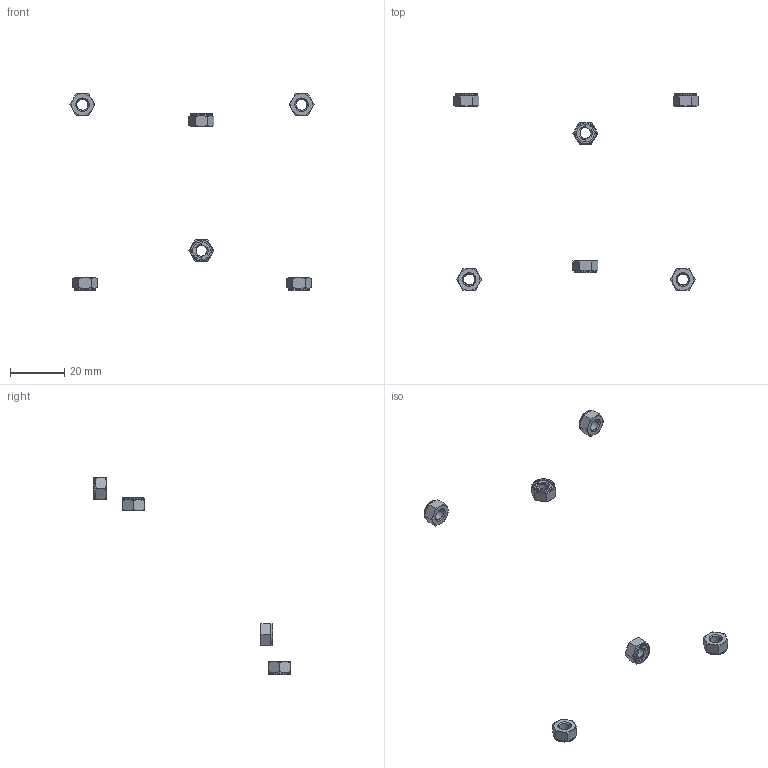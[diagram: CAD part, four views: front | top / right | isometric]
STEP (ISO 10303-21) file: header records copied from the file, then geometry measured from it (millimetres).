
FILE_DESCRIPTION(/* description */ (''),/* implementation_level */ '2;1');
FILE_NAME(/* name */ 'X-8067~1',/* time_stamp */ '2014-02-14T19:44:40+01:00',/* author */ (''),/* organization */ (''),/* preprocessor_version */ 'ST-DEVELOPER v14',/* originating_system */ '',/* authorisation */ '');
FILE_SCHEMA (('AUTOMOTIVE_DESIGN'));
Length unit declared in the file: millimetre
Products named in the file (2): Document; nut DIN985-like, lock, M5
Assembly tree (6 placements, depth 2):
  Document
    nut DIN985-like, lock, M5  x6
Bounding box: 90.24 x 72.6 x 72.6 mm (x, y, z)
Volume: 1055.9 mm3; surface area: 1630.5 mm2
Topology: 6 solids, 6 shells, 324 faces, 780 edges, 468 vertices
Faces by surface type: bspline 186, plane 138
Entity records: 3614 total; most frequent: CARTESIAN_POINT 1919, ORIENTED_EDGE 260, PCURVE 260, DEFINITIONAL_REPRESENTATION 260, B_SPLINE_CURVE_WITH_KNOTS 249, SURFACE_CURVE 130, EDGE_CURVE 130, VERTEX_POINT 78
